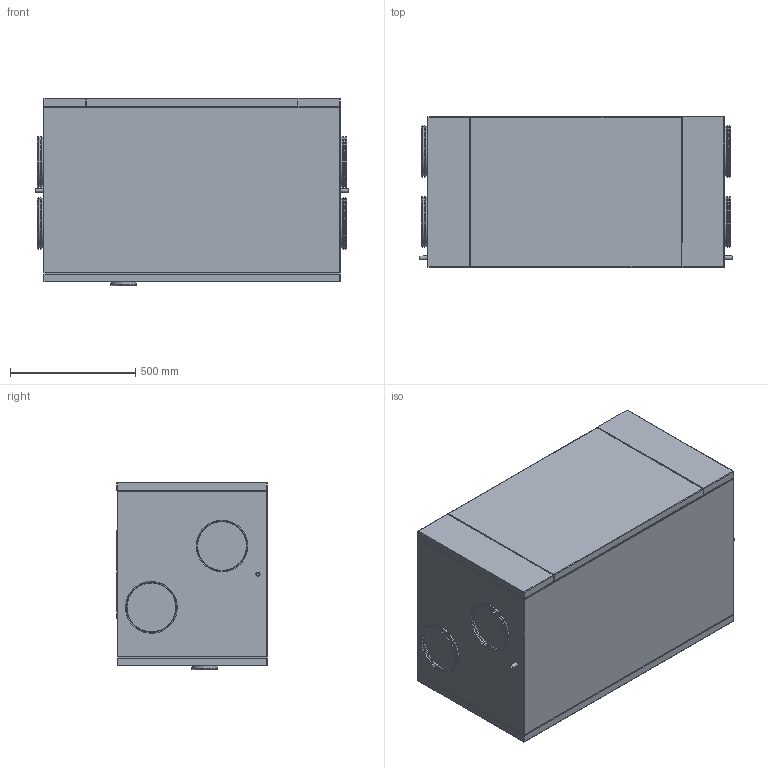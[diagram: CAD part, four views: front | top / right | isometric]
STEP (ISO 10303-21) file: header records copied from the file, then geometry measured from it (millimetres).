
FILE_DESCRIPTION(/* description */ (''),/* implementation_level */ '2;1');
FILE_NAME(/* name */ 'C:\WF Home\Thomas Mønsted\01 - Ventilation\014008 - Premium preheat 500\Premium preheat 500 - Left - BIM.stp',/* time_stamp */ '2019-10-22T11:27:47+02:00',/* author */ ('3113thmo'),/* organization */ (''),/* preprocessor_version */ 'ST-DEVELOPER v16.13',/* originating_system */ 'Autodesk Inventor 2018',/* authorisation */ '');
FILE_SCHEMA (('AUTOMOTIVE_DESIGN { 1 0 10303 214 3 1 1 }'));
Length unit declared in the file: millimetre
Products named in the file (1): Premium preheat 500 - Left - BIM
Bounding box: 1251.91 x 601.7 x 748.32 mm (x, y, z)
Volume: 520789746.7 mm3; surface area: 4336383.2 mm2
Topology: 1 solids, 2 shells, 548 faces, 1258 edges, 751 vertices
Faces by surface type: plane 304, cylinder 168, cone 36, torus 33, sphere 7
Full cylindrical faces by diameter (mm): 8 x2, 10.5 x2, 13.5 x2, 14 x2, 15 x4, 17.5 x2, 19 x2, 101.5 x2, 195 x4, 197 x8, 198 x4, 199 x12, 200 x8, 207 x8
Entity records: 14724 total; most frequent: DIRECTION 2559, CARTESIAN_POINT 2361, ORIENTED_EDGE 2188, EDGE_CURVE 1094, AXIS2_PLACEMENT_3D 916, LINE 727, VECTOR 727, EDGE_LOOP 720
